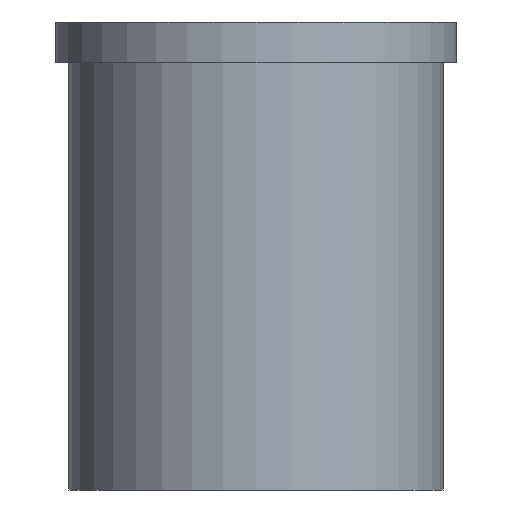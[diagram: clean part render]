
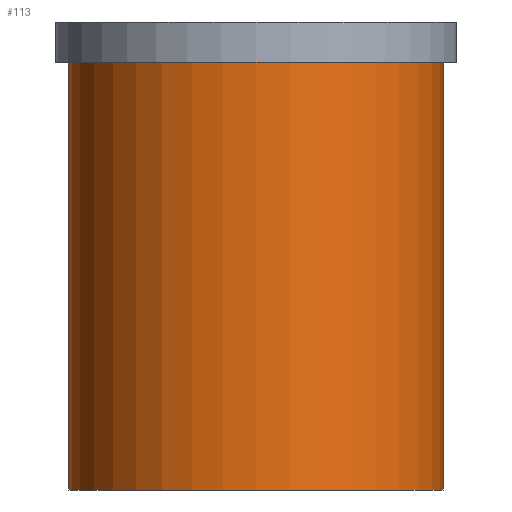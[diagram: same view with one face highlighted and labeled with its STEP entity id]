
A CAD part, front view. The second image highlights one B-rep face of the part: STEP entity #113.
In plain terms, the highlighted cylindrical face has radius 14 mm (diameter 28 mm), a partial arc.
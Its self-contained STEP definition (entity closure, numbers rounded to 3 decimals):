
#113=ADVANCED_FACE('',(#126),#120,.T.);
#120=CYLINDRICAL_SURFACE('',#249,14.);
#126=FACE_OUTER_BOUND('',#136,.T.);
#136=EDGE_LOOP('',(#179,#180,#181,#182));
#148=CIRCLE('',#244,14.);
#150=CIRCLE('',#248,14.);
#179=ORIENTED_EDGE('',*,*,#213,.F.);
#180=ORIENTED_EDGE('',*,*,#212,.T.);
#181=ORIENTED_EDGE('',*,*,#215,.T.);
#182=ORIENTED_EDGE('',*,*,#216,.F.);
#195=VERTEX_POINT('',#328);
#196=VERTEX_POINT('',#329);
#197=VERTEX_POINT('',#333);
#198=VERTEX_POINT('',#335);
#212=EDGE_CURVE('',#196,#195,#148,.T.);
#213=EDGE_CURVE('',#196,#197,#221,.T.);
#215=EDGE_CURVE('',#195,#198,#222,.T.);
#216=EDGE_CURVE('',#197,#198,#150,.T.);
#221=LINE('',#332,#227);
#222=LINE('',#336,#228);
#227=VECTOR('',#289,1.);
#228=VECTOR('',#292,1.);
#244=AXIS2_PLACEMENT_3D('',#330,#285,#286);
#248=AXIS2_PLACEMENT_3D('',#338,#295,#296);
#249=AXIS2_PLACEMENT_3D('',#339,#297,#298);
#285=DIRECTION('',(0.,0.,1.));
#286=DIRECTION('',(0.,1.,0.));
#289=DIRECTION('',(0.,0.,1.));
#292=DIRECTION('',(0.,0.,1.));
#295=DIRECTION('',(0.,0.,1.));
#296=DIRECTION('',(0.,1.,0.));
#297=DIRECTION('',(0.,0.,1.));
#298=DIRECTION('',(0.,-1.,0.));
#328=CARTESIAN_POINT('',(14.,0.,-32.));
#329=CARTESIAN_POINT('',(-14.,0.,-32.));
#330=CARTESIAN_POINT('',(0.,0.,-32.));
#332=CARTESIAN_POINT('',(-14.,0.,-32.));
#333=CARTESIAN_POINT('',(-14.,0.,0.));
#335=CARTESIAN_POINT('',(14.,0.,0.));
#336=CARTESIAN_POINT('',(14.,0.,-32.));
#338=CARTESIAN_POINT('',(0.,0.,0.));
#339=CARTESIAN_POINT('',(0.,0.,-32.));
